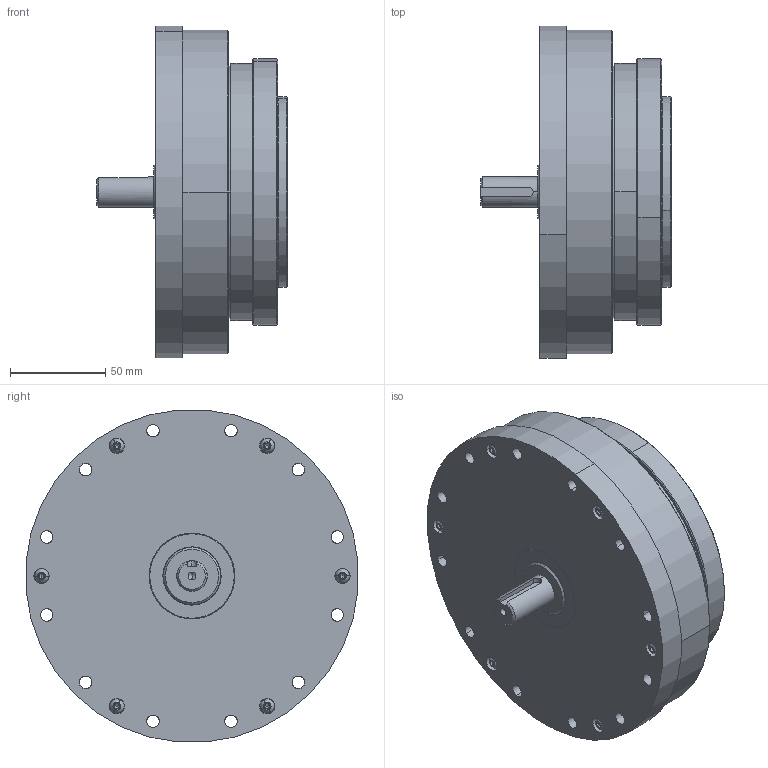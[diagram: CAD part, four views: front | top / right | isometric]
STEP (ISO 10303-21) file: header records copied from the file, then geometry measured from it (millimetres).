
FILE_DESCRIPTION (( 'STEP AP203' ), '1' );
FILE_NAME ('FHG-40-XXX-AJ.STEP', '2019-06-21T02:31:42', ( '' ), ( '' ), 'SwSTEP 2.0', 'SolidWorks 2016', '' );
FILE_SCHEMA (( 'CONFIG_CONTROL_DESIGN' ));
Length unit declared in the file: millimetre
Products named in the file (1): FHG-40-XXX-AJ
Bounding box: 100 x 174.33 x 174.33 mm (x, y, z)
Volume: 758250.6 mm3; surface area: 274060.6 mm2
Topology: 19 solids, 19 shells, 813 faces, 1851 edges, 1107 vertices
Faces by surface type: cylinder 364, cone 232, plane 169, torus 36, sphere 12
Entity records: 23072 total; most frequent: DIRECTION 4323, CARTESIAN_POINT 4122, ORIENTED_EDGE 3570, AXIS2_PLACEMENT_3D 1818, EDGE_CURVE 1785, VERTEX_POINT 1107, EDGE_LOOP 1066, CIRCLE 1004
